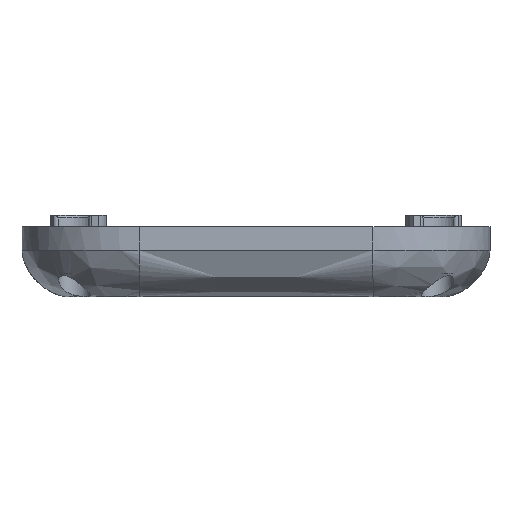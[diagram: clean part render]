
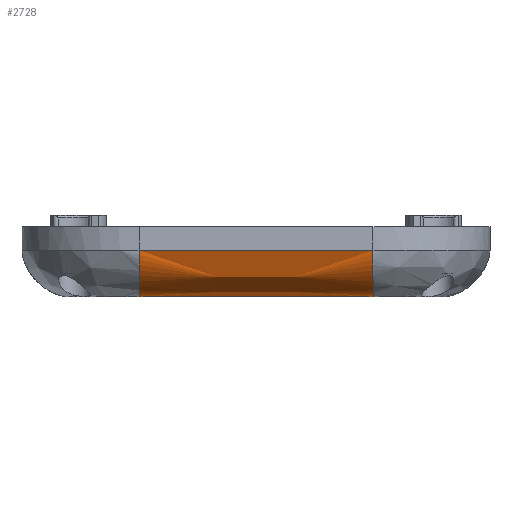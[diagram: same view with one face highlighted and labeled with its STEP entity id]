
A CAD part, front view. The second image highlights one B-rep face of the part: STEP entity #2728.
In plain terms, the highlighted free-form (B-spline) face has degree [3, 3] with [7, 4] control points.
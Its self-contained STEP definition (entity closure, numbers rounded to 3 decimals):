
#49=B_SPLINE_SURFACE_WITH_KNOTS('',3,3,((#5249,#5250,#5251,#5252),(#5253,
#5254,#5255,#5256),(#5257,#5258,#5259,#5260),(#5261,#5262,#5263,#5264),
(#5265,#5266,#5267,#5268),(#5269,#5270,#5271,#5272),(#5273,#5274,#5275,
#5276)),.UNSPECIFIED.,.F.,.F.,.F.,(4,1,1,1,4),(4,4),(0.,0.286,
0.571,0.857,1.),(12.884,16.884),
 .UNSPECIFIED.);
#201=FACE_OUTER_BOUND('',#363,.T.);
#363=EDGE_LOOP('',(#2088,#2089,#2090,#2091));
#878=B_SPLINE_CURVE_WITH_KNOTS('',3,(#4155,#4156,#4157,#4158,#4159,#4160,
#4161),.UNSPECIFIED.,.F.,.F.,(4,1,1,1,4),(-1.,-0.857,-0.571,
-0.286,0.),.UNSPECIFIED.);
#897=B_SPLINE_CURVE_WITH_KNOTS('',3,(#4694,#4695,#4696,#4697),
 .UNSPECIFIED.,.F.,.F.,(4,4),(-16.884,-12.884),
 .UNSPECIFIED.);
#919=B_SPLINE_CURVE_WITH_KNOTS('',3,(#5242,#5243,#5244,#5245,#5246,#5247,
#5248),.UNSPECIFIED.,.F.,.F.,(4,1,1,1,4),(0.,0.286,0.571,
0.857,1.),.UNSPECIFIED.);
#920=B_SPLINE_CURVE_WITH_KNOTS('',3,(#5277,#5278,#5279,#5280),
 .UNSPECIFIED.,.F.,.F.,(4,4),(12.884,16.884),
 .UNSPECIFIED.);
#1128=VERTEX_POINT('',#4065);
#1131=VERTEX_POINT('',#4144);
#1182=VERTEX_POINT('',#4693);
#1244=VERTEX_POINT('',#5233);
#1418=EDGE_CURVE('',#1128,#1131,#878,.T.);
#1485=EDGE_CURVE('',#1131,#1182,#897,.T.);
#1571=EDGE_CURVE('',#1244,#1182,#919,.T.);
#1572=EDGE_CURVE('',#1244,#1128,#920,.T.);
#2088=ORIENTED_EDGE('',*,*,#1572,.T.);
#2089=ORIENTED_EDGE('',*,*,#1418,.T.);
#2090=ORIENTED_EDGE('',*,*,#1485,.T.);
#2091=ORIENTED_EDGE('',*,*,#1571,.F.);
#2728=ADVANCED_FACE('',(#201),#49,.T.);
#4065=CARTESIAN_POINT('',(-20.,-75.,-16.));
#4144=CARTESIAN_POINT('',(-20.,-67.,-24.));
#4155=CARTESIAN_POINT('Ctrl Pts',(-20.,-75.,-16.));
#4156=CARTESIAN_POINT('Ctrl Pts',(-20.,-75.,-16.407));
#4157=CARTESIAN_POINT('Ctrl Pts',(-20.,-74.853,-17.765));
#4158=CARTESIAN_POINT('Ctrl Pts',(-20.,-73.39,-20.743));
#4159=CARTESIAN_POINT('Ctrl Pts',(-20.,-69.903,-23.557));
#4160=CARTESIAN_POINT('Ctrl Pts',(-20.,-67.814,-24.));
#4161=CARTESIAN_POINT('Ctrl Pts',(-20.,-67.,-24.));
#4693=CARTESIAN_POINT('',(20.,-67.,-24.));
#4694=CARTESIAN_POINT('Ctrl Pts',(-20.,-67.,-24.));
#4695=CARTESIAN_POINT('Ctrl Pts',(-6.648,-67.,-24.));
#4696=CARTESIAN_POINT('Ctrl Pts',(6.648,-67.,-24.));
#4697=CARTESIAN_POINT('Ctrl Pts',(20.,-67.,-24.));
#5233=CARTESIAN_POINT('',(20.,-75.,-16.));
#5242=CARTESIAN_POINT('Ctrl Pts',(20.,-75.,-16.));
#5243=CARTESIAN_POINT('Ctrl Pts',(20.,-75.,-16.814));
#5244=CARTESIAN_POINT('Ctrl Pts',(20.,-74.557,-18.903));
#5245=CARTESIAN_POINT('Ctrl Pts',(20.,-71.743,-22.39));
#5246=CARTESIAN_POINT('Ctrl Pts',(20.,-68.765,-23.853));
#5247=CARTESIAN_POINT('Ctrl Pts',(20.,-67.407,-24.));
#5248=CARTESIAN_POINT('Ctrl Pts',(20.,-67.,-24.));
#5249=CARTESIAN_POINT('Ctrl Pts',(20.,-67.,-24.));
#5250=CARTESIAN_POINT('Ctrl Pts',(6.648,-67.,-24.));
#5251=CARTESIAN_POINT('Ctrl Pts',(-6.648,-67.,-24.));
#5252=CARTESIAN_POINT('Ctrl Pts',(-20.,-67.,-24.));
#5253=CARTESIAN_POINT('Ctrl Pts',(20.,-67.814,-24.));
#5254=CARTESIAN_POINT('Ctrl Pts',(6.648,-67.814,-24.));
#5255=CARTESIAN_POINT('Ctrl Pts',(-6.648,-67.814,-24.));
#5256=CARTESIAN_POINT('Ctrl Pts',(-20.,-67.814,-24.));
#5257=CARTESIAN_POINT('Ctrl Pts',(20.,-69.903,-23.557));
#5258=CARTESIAN_POINT('Ctrl Pts',(6.648,-69.903,-23.557));
#5259=CARTESIAN_POINT('Ctrl Pts',(-6.648,-69.903,-23.557));
#5260=CARTESIAN_POINT('Ctrl Pts',(-20.,-69.903,-23.557));
#5261=CARTESIAN_POINT('Ctrl Pts',(20.,-73.39,-20.743));
#5262=CARTESIAN_POINT('Ctrl Pts',(6.648,-73.39,-20.743));
#5263=CARTESIAN_POINT('Ctrl Pts',(-6.648,-73.39,-20.743));
#5264=CARTESIAN_POINT('Ctrl Pts',(-20.,-73.39,-20.743));
#5265=CARTESIAN_POINT('Ctrl Pts',(20.,-74.853,-17.765));
#5266=CARTESIAN_POINT('Ctrl Pts',(6.648,-74.853,-17.765));
#5267=CARTESIAN_POINT('Ctrl Pts',(-6.648,-74.853,-17.765));
#5268=CARTESIAN_POINT('Ctrl Pts',(-20.,-74.853,-17.765));
#5269=CARTESIAN_POINT('Ctrl Pts',(20.,-75.,-16.407));
#5270=CARTESIAN_POINT('Ctrl Pts',(6.648,-75.,-16.407));
#5271=CARTESIAN_POINT('Ctrl Pts',(-6.648,-75.,-16.407));
#5272=CARTESIAN_POINT('Ctrl Pts',(-20.,-75.,-16.407));
#5273=CARTESIAN_POINT('Ctrl Pts',(20.,-75.,-16.));
#5274=CARTESIAN_POINT('Ctrl Pts',(6.648,-75.,-16.));
#5275=CARTESIAN_POINT('Ctrl Pts',(-6.648,-75.,-16.));
#5276=CARTESIAN_POINT('Ctrl Pts',(-20.,-75.,-16.));
#5277=CARTESIAN_POINT('Ctrl Pts',(20.,-75.,-16.));
#5278=CARTESIAN_POINT('Ctrl Pts',(6.648,-75.,-16.));
#5279=CARTESIAN_POINT('Ctrl Pts',(-6.648,-75.,-16.));
#5280=CARTESIAN_POINT('Ctrl Pts',(-20.,-75.,-16.));
